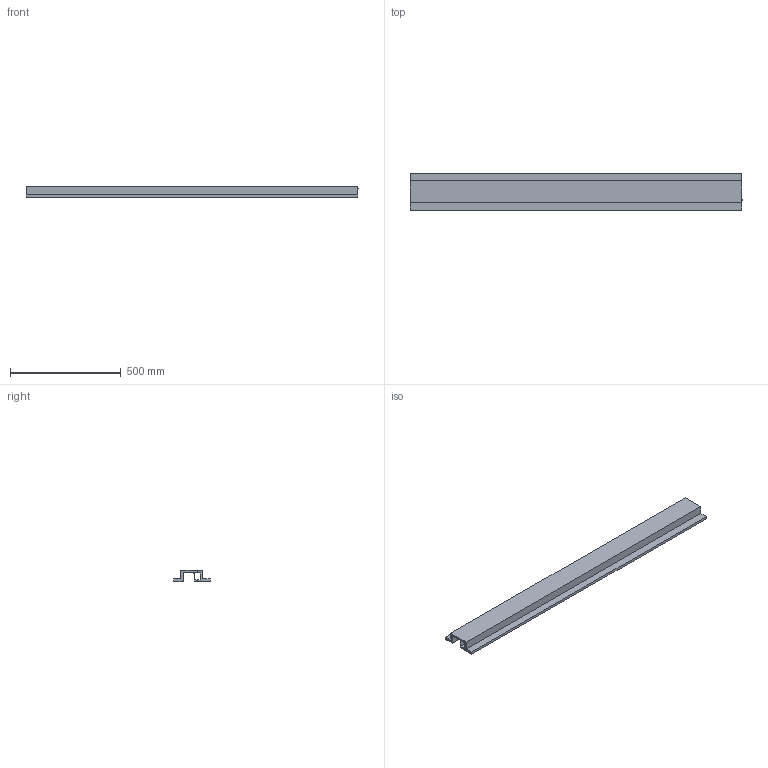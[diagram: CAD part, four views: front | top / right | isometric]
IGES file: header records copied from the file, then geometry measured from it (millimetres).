
Start section: SolidWorks IGES file using analytic representation for surfaces
Global section: file name: C:\Users\Stagiaire\Desktop\Rendu 3D\Micro BLADE\Micro BLADE 50\772_Micro_BLADE_50.IGS; native system: SolidWorks 2014; preprocessor: SolidWorks 2014; author: Stagiaire; date: 140915.111441; units: millimetre
Bounding box: 1500 x 165 x 50 mm (x, y, z)
Surface area: 1045096.2 mm2 (no closed solid volume)
Topology: 0 solids, 0 shells, 33 faces, 202 edges, 202 vertices
Faces by surface type: bspline 31, revolution 2
